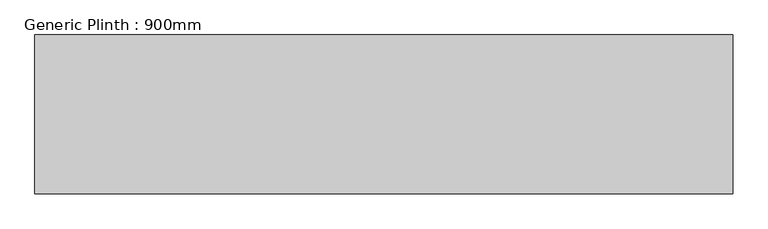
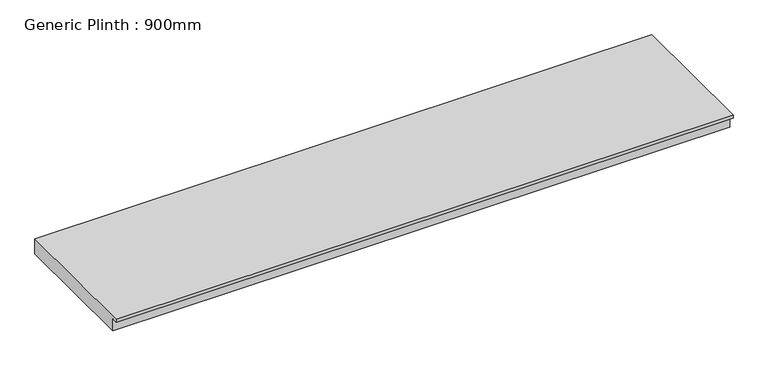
"""IFC4 building model written with IfcOpenShell, lengths in millimetres: furniture geometry, Generic Plinth : 900mm."""

from ifc_helpers import new_model, si_unit, frame, origin, place, context, project, spatial, polyline, outline, extrude, source, transform, mapped, element, save


def generic_plinth_900mm_069b71a8(model_context):
    return source(origin(), model_context, "Body", "SweptSolid", [
        extrude(outline(polyline([(-900.0, 81.0), (-900.0, 100.0), (0.0, 100.0), (0.0, 0.0), (-865.0, 0.0), (-865.0, 81.0), (-900.0, 81.0)])), frame((-1958.2622951, 0.0, 0.0), z_axis=(1.0, 0.0, 0.0), x_axis=(0.0, 1.0, 0.0)), (0.0, 0.0, 1.0), 3954.0),
    ])


if __name__ == "__main__":
    model = new_model("IFC4")
    model_context = context("Model", 3, world=origin())
    ifc_project = project(units=[si_unit("LENGTHUNIT", "METRE", prefix="MILLI")], contexts=[model_context])
    site = spatial("IfcSite", under=ifc_project)
    building = spatial("IfcBuilding", under=site)
    placement = place(None, origin())
    generic_plinth_900mm_shape = generic_plinth_900mm_069b71a8(model_context)
    element("IfcFurniture", 1, ObjectType="Generic Plinth : 900mm", at=placement, inside=building, context=model_context, shape_type="MappedRepresentation", body=[
        mapped(generic_plinth_900mm_shape, transform((0.0, 0.0, 0.0), x_axis=(1.0, 0.0, 0.0), y_axis=(0.0, 1.0, 0.0), z_axis=(0.0, 0.0, 1.0))),
    ])
    save(model, "model.ifc")
